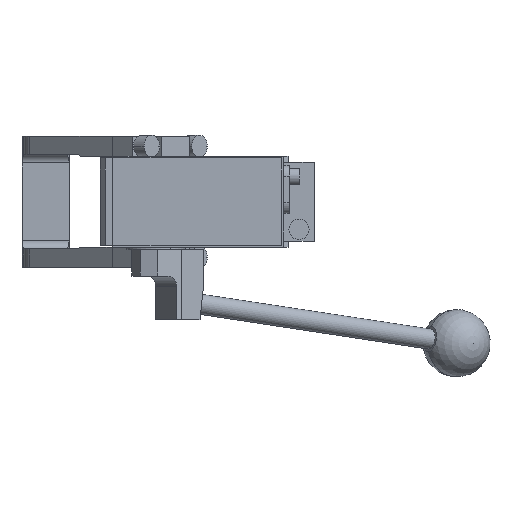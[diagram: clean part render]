
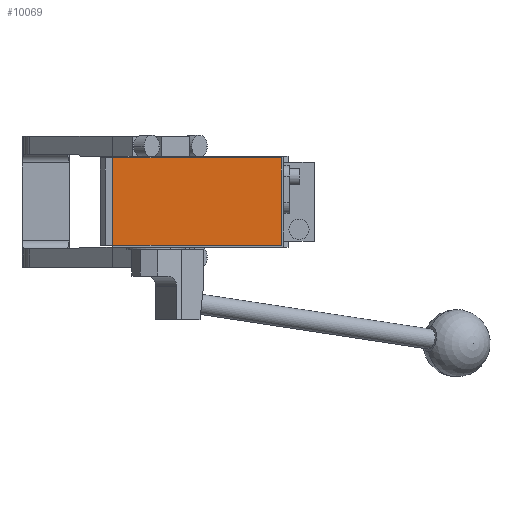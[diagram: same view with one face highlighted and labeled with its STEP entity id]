
A CAD part, front view. The second image highlights one B-rep face of the part: STEP entity #10069.
In plain terms, the highlighted planar face has unit normal (0, -1, 0).
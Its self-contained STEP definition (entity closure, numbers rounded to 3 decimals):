
#8 = CARTESIAN_POINT ( 'NONE',  ( -19., -286.5, 26. ) ) ;
#127 = DIRECTION ( 'NONE',  ( 0., 0., 1. ) ) ;
#613 = VERTEX_POINT ( 'NONE', #9263 ) ;
#1198 = DIRECTION ( 'NONE',  ( 1., 0., 0. ) ) ;
#1323 = LINE ( 'NONE', #8, #13179 ) ;
#2436 = EDGE_CURVE ( 'NONE', #9164, #613, #5921, .T. ) ;
#2680 = ORIENTED_EDGE ( 'NONE', *, *, #6330, .T. ) ;
#3140 = EDGE_LOOP ( 'NONE', ( #14805, #3998, #14806, #2680 ) ) ;
#3321 = LINE ( 'NONE', #11498, #8371 ) ;
#3602 = VERTEX_POINT ( 'NONE', #14043 ) ;
#3998 = ORIENTED_EDGE ( 'NONE', *, *, #7366, .T. ) ;
#4352 = VECTOR ( 'NONE', #1198, 1000. ) ;
#4571 = CARTESIAN_POINT ( 'NONE',  ( 0., -286.5, 0. ) ) ;
#4765 = CARTESIAN_POINT ( 'NONE',  ( -19., -286.5, -26. ) ) ;
#4838 = LINE ( 'NONE', #4765, #4352 ) ;
#5921 = LINE ( 'NONE', #10583, #7236 ) ;
#6330 = EDGE_CURVE ( 'NONE', #613, #3602, #3321, .T. ) ;
#7090 = AXIS2_PLACEMENT_3D ( 'NONE', #4571, #8304, #15117 ) ;
#7151 = FACE_OUTER_BOUND ( 'NONE', #3140, .T. ) ;
#7236 = VECTOR ( 'NONE', #127, 1000. ) ;
#7366 = EDGE_CURVE ( 'NONE', #14707, #9164, #4838, .T. ) ;
#8089 = DIRECTION ( 'NONE',  ( 0., 0., -1. ) ) ;
#8123 = DIRECTION ( 'NONE',  ( -1., 0., 0. ) ) ;
#8304 = DIRECTION ( 'NONE',  ( 0., -1., 0. ) ) ;
#8371 = VECTOR ( 'NONE', #8123, 1000. ) ;
#9164 = VERTEX_POINT ( 'NONE', #9194 ) ;
#9194 = CARTESIAN_POINT ( 'NONE',  ( 81., -286.5, -26. ) ) ;
#9263 = CARTESIAN_POINT ( 'NONE',  ( 81., -286.5, 26. ) ) ;
#9777 = EDGE_CURVE ( 'NONE', #3602, #14707, #1323, .T. ) ;
#10069 = ADVANCED_FACE ( 'NONE', ( #7151 ), #12968, .T. ) ;
#10583 = CARTESIAN_POINT ( 'NONE',  ( 81., -286.5, 26. ) ) ;
#11498 = CARTESIAN_POINT ( 'NONE',  ( -19., -286.5, 26. ) ) ;
#12968 = PLANE ( 'NONE',  #7090 ) ;
#13179 = VECTOR ( 'NONE', #8089, 1000. ) ;
#14043 = CARTESIAN_POINT ( 'NONE',  ( -19., -286.5, 26. ) ) ;
#14681 = CARTESIAN_POINT ( 'NONE',  ( -19., -286.5, -26. ) ) ;
#14707 = VERTEX_POINT ( 'NONE', #14681 ) ;
#14805 = ORIENTED_EDGE ( 'NONE', *, *, #9777, .T. ) ;
#14806 = ORIENTED_EDGE ( 'NONE', *, *, #2436, .T. ) ;
#15117 = DIRECTION ( 'NONE',  ( 0., 0., -1. ) ) ;
